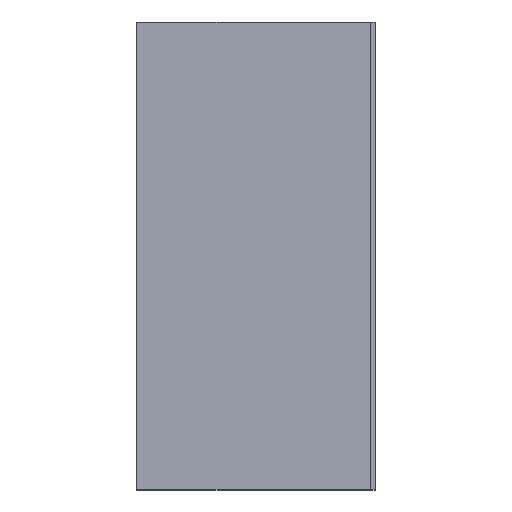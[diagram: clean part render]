
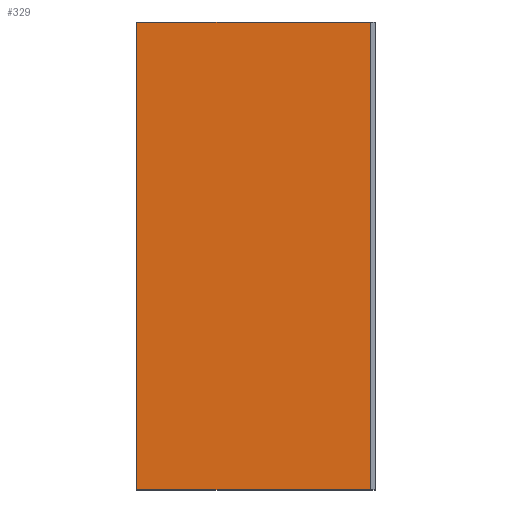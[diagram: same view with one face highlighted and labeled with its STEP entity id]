
A CAD part, left-side view. The second image highlights one B-rep face of the part: STEP entity #329.
In plain terms, the highlighted planar face has unit normal (-1, 0, 0).
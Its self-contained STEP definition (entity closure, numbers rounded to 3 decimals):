
#27 = VERTEX_POINT ( 'NONE', #314 ) ;
#33 = EDGE_LOOP ( 'NONE', ( #78, #44, #51, #56 ) ) ;
#44 = ORIENTED_EDGE ( 'NONE', *, *, #140, .F. ) ;
#51 = ORIENTED_EDGE ( 'NONE', *, *, #141, .F. ) ;
#56 = ORIENTED_EDGE ( 'NONE', *, *, #159, .T. ) ;
#78 = ORIENTED_EDGE ( 'NONE', *, *, #139, .T. ) ;
#84 = VERTEX_POINT ( 'NONE', #310 ) ;
#85 = VERTEX_POINT ( 'NONE', #306 ) ;
#96 = VERTEX_POINT ( 'NONE', #293 ) ;
#139 = EDGE_CURVE ( 'NONE', #85, #84, #345, .T. ) ;
#140 = EDGE_CURVE ( 'NONE', #27, #84, #365, .T. ) ;
#141 = EDGE_CURVE ( 'NONE', #96, #27, #366, .T. ) ;
#159 = EDGE_CURVE ( 'NONE', #96, #85, #363, .T. ) ;
#162 = AXIS2_PLACEMENT_3D ( 'NONE', #224, #218, #217 ) ;
#217 = DIRECTION ( 'NONE',  ( 0., 0., -1. ) ) ;
#218 = DIRECTION ( 'NONE',  ( 1., 0., 0. ) ) ;
#224 = CARTESIAN_POINT ( 'NONE',  ( 0., 10., -10. ) ) ;
#226 = PLANE ( 'NONE',  #162 ) ;
#265 = DIRECTION ( 'NONE',  ( 0., -1., 0. ) ) ;
#268 = CARTESIAN_POINT ( 'NONE',  ( 0., 10., -10. ) ) ;
#269 = DIRECTION ( 'NONE',  ( 0., 0., 1. ) ) ;
#272 = CARTESIAN_POINT ( 'NONE',  ( 0., 10., -10. ) ) ;
#274 = DIRECTION ( 'NONE',  ( 0., -1., 0. ) ) ;
#276 = DIRECTION ( 'NONE',  ( 0., 0., 1. ) ) ;
#278 = CARTESIAN_POINT ( 'NONE',  ( 0., 0., -10. ) ) ;
#286 = CARTESIAN_POINT ( 'NONE',  ( 0., 10., 10. ) ) ;
#293 = CARTESIAN_POINT ( 'NONE',  ( 0., 10., -10. ) ) ;
#306 = CARTESIAN_POINT ( 'NONE',  ( 0., 0., -10. ) ) ;
#310 = CARTESIAN_POINT ( 'NONE',  ( 0., 0., 10. ) ) ;
#314 = CARTESIAN_POINT ( 'NONE',  ( 0., 10., 10. ) ) ;
#329 = ADVANCED_FACE ( 'NONE', ( #347 ), #226, .F. ) ;
#338 = VECTOR ( 'NONE', #276, 1000. ) ;
#345 = LINE ( 'NONE', #278, #338 ) ;
#347 = FACE_OUTER_BOUND ( 'NONE', #33, .T. ) ;
#359 = VECTOR ( 'NONE', #265, 1000. ) ;
#361 = VECTOR ( 'NONE', #269, 1000. ) ;
#363 = LINE ( 'NONE', #268, #359 ) ;
#364 = VECTOR ( 'NONE', #274, 1000. ) ;
#365 = LINE ( 'NONE', #286, #364 ) ;
#366 = LINE ( 'NONE', #272, #361 ) ;
